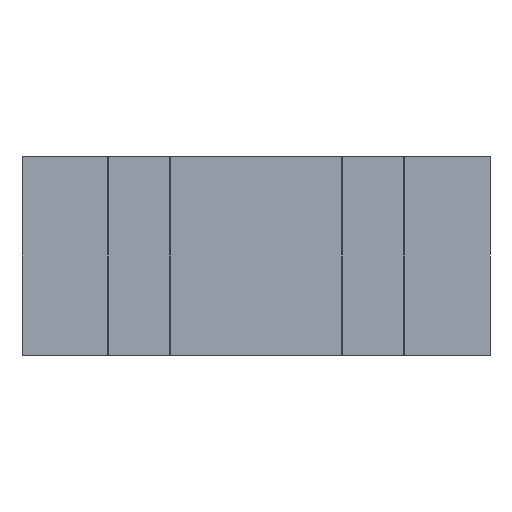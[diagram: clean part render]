
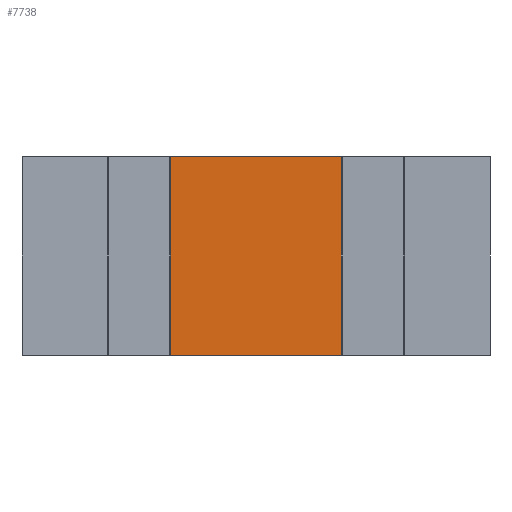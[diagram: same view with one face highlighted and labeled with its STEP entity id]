
A CAD part, left-side view. The second image highlights one B-rep face of the part: STEP entity #7738.
In plain terms, the highlighted planar face has unit normal (-1, 0, 0).
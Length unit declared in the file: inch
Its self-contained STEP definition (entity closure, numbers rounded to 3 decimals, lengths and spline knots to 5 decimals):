
#7682=CARTESIAN_POINT('',(-0.59055,-1.01969,1.0));
#7683=VERTEX_POINT('',#7682);
#7690=CARTESIAN_POINT('',(-0.59055,-1.01969,0.0));
#7691=VERTEX_POINT('',#7690);
#7692=CARTESIAN_POINT('',(-0.59055,-1.01969,0.0));
#7693=DIRECTION('',(0.0,0.0,1.0));
#7694=VECTOR('',#7693,1.0);
#7695=LINE('',#7692,#7694);
#7696=EDGE_CURVE('',#7691,#7683,#7695,.T.);
#7708=CARTESIAN_POINT('',(-0.59055,-1.01969,0.0));
#7709=DIRECTION('',(-1.0,0.0,0.0));
#7710=DIRECTION('',(0.0,0.0,1.0));
#7711=AXIS2_PLACEMENT_3D('',#7708,#7709,#7710);
#7712=PLANE('',#7711);
#7713=CARTESIAN_POINT('',(-0.59055,-0.16142,1.0));
#7714=VERTEX_POINT('',#7713);
#7715=CARTESIAN_POINT('',(-0.59055,-1.01969,1.0));
#7716=DIRECTION('',(0.0,1.0,0.0));
#7717=VECTOR('',#7716,0.85827);
#7718=LINE('',#7715,#7717);
#7719=EDGE_CURVE('',#7683,#7714,#7718,.T.);
#7720=ORIENTED_EDGE('',*,*,#7719,.T.);
#7721=CARTESIAN_POINT('',(-0.59055,-0.16142,0.0));
#7722=VERTEX_POINT('',#7721);
#7723=CARTESIAN_POINT('',(-0.59055,-0.16142,0.0));
#7724=DIRECTION('',(0.0,0.0,1.0));
#7725=VECTOR('',#7724,1.0);
#7726=LINE('',#7723,#7725);
#7727=EDGE_CURVE('',#7722,#7714,#7726,.T.);
#7728=ORIENTED_EDGE('',*,*,#7727,.F.);
#7729=CARTESIAN_POINT('',(-0.59055,-1.01969,0.0));
#7730=DIRECTION('',(0.0,1.0,0.0));
#7731=VECTOR('',#7730,0.85827);
#7732=LINE('',#7729,#7731);
#7733=EDGE_CURVE('',#7691,#7722,#7732,.T.);
#7734=ORIENTED_EDGE('',*,*,#7733,.F.);
#7735=ORIENTED_EDGE('',*,*,#7696,.T.);
#7736=EDGE_LOOP('',(#7720,#7728,#7734,#7735));
#7737=FACE_OUTER_BOUND('',#7736,.T.);
#7738=ADVANCED_FACE('',(#7737),#7712,.T.);
